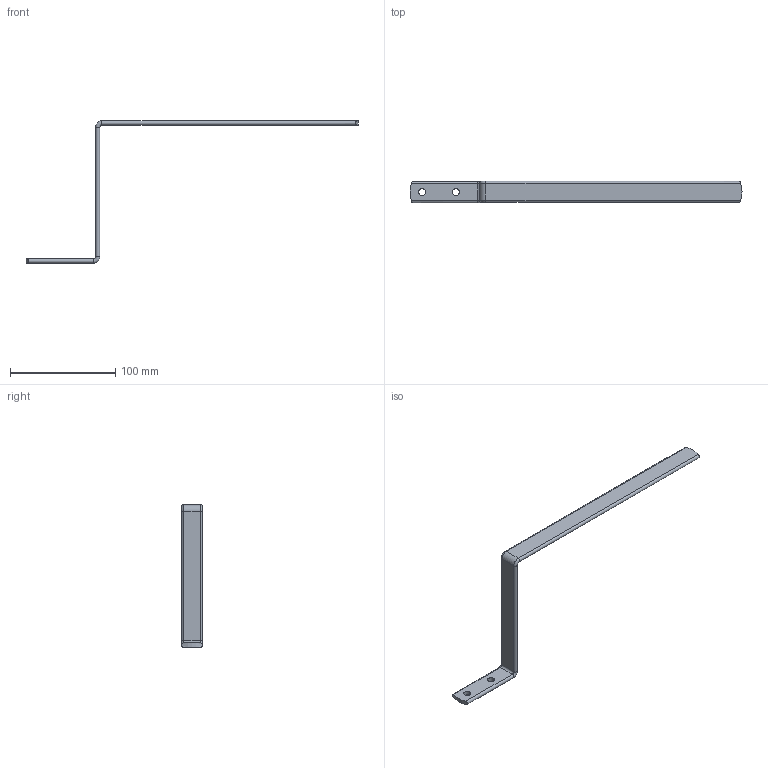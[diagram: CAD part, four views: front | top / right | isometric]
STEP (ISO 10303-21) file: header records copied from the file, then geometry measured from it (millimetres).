
FILE_DESCRIPTION((''),'2;1');
FILE_NAME('237006','2023-09-11T09:52:17',('1ke04'),('Kesseboehmer'),'CREO PARAMETRIC BY PTC INC, 2020414','CREO PARAMETRIC BY PTC INC, 2020414','');
FILE_SCHEMA(('AUTOMOTIVE_DESIGN { 1 0 10303 214 1 1 1 1 }'));
Length unit declared in the file: millimetre
Products named in the file (1): 237006
Bounding box: 315 x 20 x 135 mm (x, y, z)
Volume: 33523.9 mm3; surface area: 19838.6 mm2
Topology: 1 solids, 1 shells, 26 faces, 56 edges, 34 vertices
Faces by surface type: cylinder 16, plane 6, torus 4
Entity records: 1481 total; most frequent: CARTESIAN_POINT 206, COLOUR_RGB 193, DIRECTION 157, ORIENTED_EDGE 112, PROPERTY_DEFINITION 73, REPRESENTATION 72, PROPERTY_DEFINITION_REPRESENTATION 72, AXIS2_PLACEMENT_3D 64
